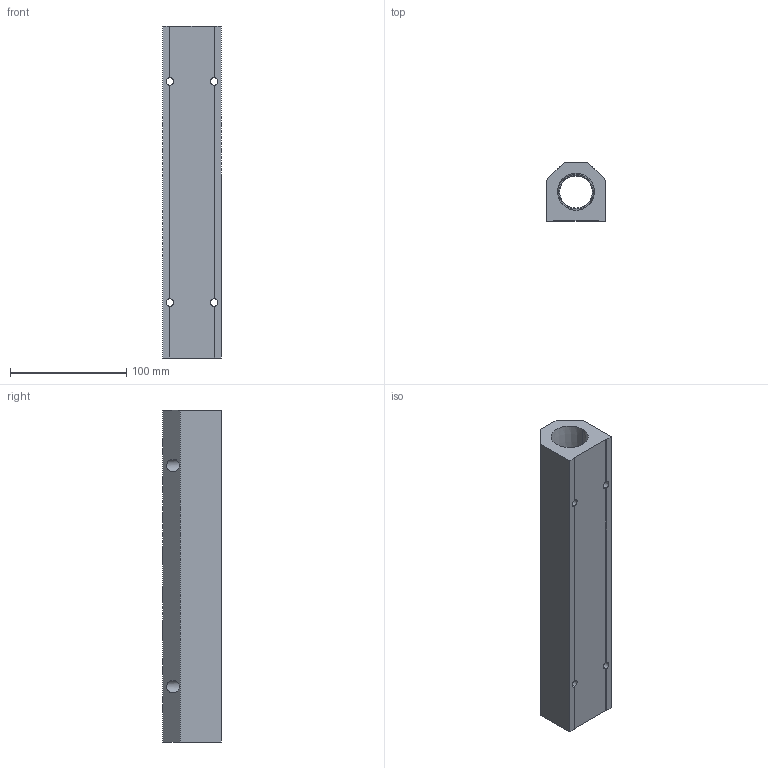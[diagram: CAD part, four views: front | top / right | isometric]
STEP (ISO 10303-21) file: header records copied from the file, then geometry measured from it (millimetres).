
FILE_DESCRIPTION (( 'STEP AP214' ), '1' );
FILE_NAME ('ALM8C-N4N16-286B.STEP', '2023-11-02T06:40:03', ( '' ), ( '' ), 'SwSTEP 2.0', 'SolidWorks 2020', '' );
FILE_SCHEMA (( 'AUTOMOTIVE_DESIGN' ));
Length unit declared in the file: millimetre
Products named in the file (1): ALM8C-N4N16-286B
Bounding box: 50.8 x 50.8 x 286 mm (x, y, z)
Volume: 462349.1 mm3; surface area: 87190.6 mm2
Topology: 1 solids, 1 shells, 306 faces, 794 edges, 524 vertices
Faces by surface type: plane 182, bspline 78, cone 24, cylinder 22
Entity records: 17229 total; most frequent: CARTESIAN_POINT 7487, ORIENTED_EDGE 1588, DIRECTION 1124, EDGE_CURVE 794, LINE 546, VECTOR 546, VERTEX_POINT 524, EDGE_LOOP 366
